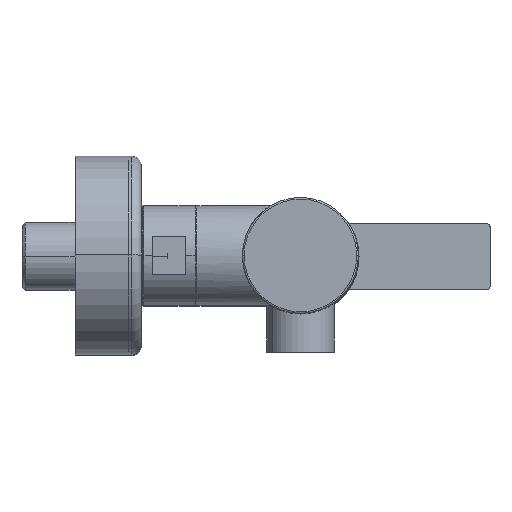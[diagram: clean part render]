
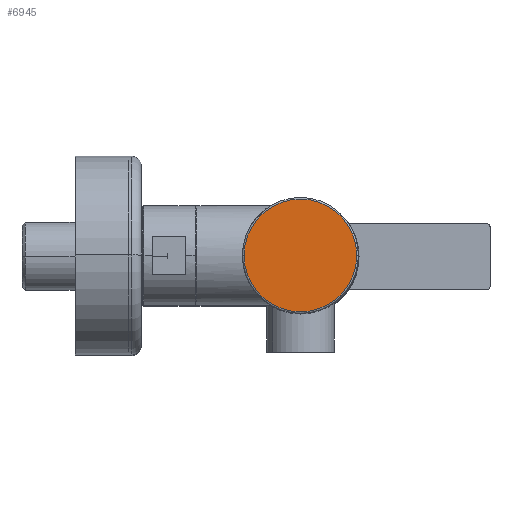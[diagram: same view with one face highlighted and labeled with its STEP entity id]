
A CAD part, top view. The second image highlights one B-rep face of the part: STEP entity #6945.
In plain terms, the highlighted planar face has unit normal (0, 0, 1).
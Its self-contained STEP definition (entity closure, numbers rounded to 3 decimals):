
#196 = CARTESIAN_POINT ( 'NONE',  ( 0., 0., 210. ) ) ;
#1654 = DIRECTION ( 'NONE',  ( 1., 0., 0. ) ) ;
#2053 = EDGE_CURVE ( 'NONE', #5011, #10329, #14728, .T. ) ;
#2858 = PLANE ( 'NONE',  #13756 ) ;
#2919 = DIRECTION ( 'NONE',  ( 0., 0., 1. ) ) ;
#3100 = DIRECTION ( 'NONE',  ( 0., 0., 1. ) ) ;
#3304 = CARTESIAN_POINT ( 'NONE',  ( 17., 0., 210. ) ) ;
#4828 = ORIENTED_EDGE ( 'NONE', *, *, #6608, .T. ) ;
#5011 = VERTEX_POINT ( 'NONE', #9737 ) ;
#5868 = DIRECTION ( 'NONE',  ( 1., 0., 0. ) ) ;
#6608 = EDGE_CURVE ( 'NONE', #10329, #5011, #15788, .T. ) ;
#6945 = ADVANCED_FACE ( 'NONE', ( #15138 ), #2858, .T. ) ;
#9737 = CARTESIAN_POINT ( 'NONE',  ( -17., 0., 210. ) ) ;
#10329 = VERTEX_POINT ( 'NONE', #3304 ) ;
#10376 = AXIS2_PLACEMENT_3D ( 'NONE', #16902, #3100, #5868 ) ;
#12583 = EDGE_LOOP ( 'NONE', ( #4828, #17056 ) ) ;
#13756 = AXIS2_PLACEMENT_3D ( 'NONE', #15436, #2919, #16903 ) ;
#14728 = CIRCLE ( 'NONE', #17264, 17. ) ;
#15138 = FACE_OUTER_BOUND ( 'NONE', #12583, .T. ) ;
#15436 = CARTESIAN_POINT ( 'NONE',  ( 0., 0., 210. ) ) ;
#15788 = CIRCLE ( 'NONE', #10376, 17. ) ;
#16902 = CARTESIAN_POINT ( 'NONE',  ( 0., 0., 210. ) ) ;
#16903 = DIRECTION ( 'NONE',  ( 1., 0., 0. ) ) ;
#17056 = ORIENTED_EDGE ( 'NONE', *, *, #2053, .T. ) ;
#17158 = DIRECTION ( 'NONE',  ( 0., 0., 1. ) ) ;
#17264 = AXIS2_PLACEMENT_3D ( 'NONE', #196, #17158, #1654 ) ;
